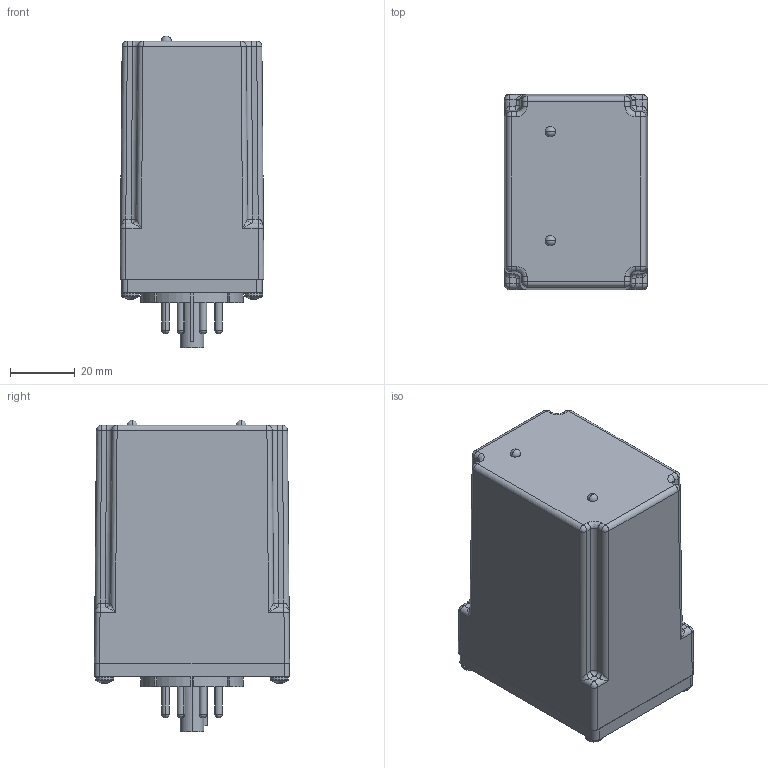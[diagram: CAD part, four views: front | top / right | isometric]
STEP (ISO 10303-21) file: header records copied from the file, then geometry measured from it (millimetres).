
FILE_DESCRIPTION (( 'STEP AP214' ), '1' );
FILE_NAME ('ARP wo Switch.STEP', '2019-05-19T23:39:23', ( '' ), ( '' ), 'SwSTEP 2.0', 'SolidWorks 2019', '' );
FILE_SCHEMA (( 'AUTOMOTIVE_DESIGN' ));
Length unit declared in the file: millimetre
Products named in the file (1): ARP wo Switch
Bounding box: 44.45 x 60.33 x 96.33 mm (x, y, z)
Volume: 200490.5 mm3; surface area: 28790.3 mm2
Topology: 16 solids, 16 shells, 684 faces, 1811 edges, 1152 vertices
Faces by surface type: cylinder 280, plane 218, bspline 114, cone 40, sphere 32
Entity records: 36953 total; most frequent: CARTESIAN_POINT 16506, ORIENTED_EDGE 3510, DIRECTION 2581, EDGE_CURVE 1755, VERTEX_POINT 1132, AXIS2_PLACEMENT_3D 907, LINE 767, VECTOR 767
